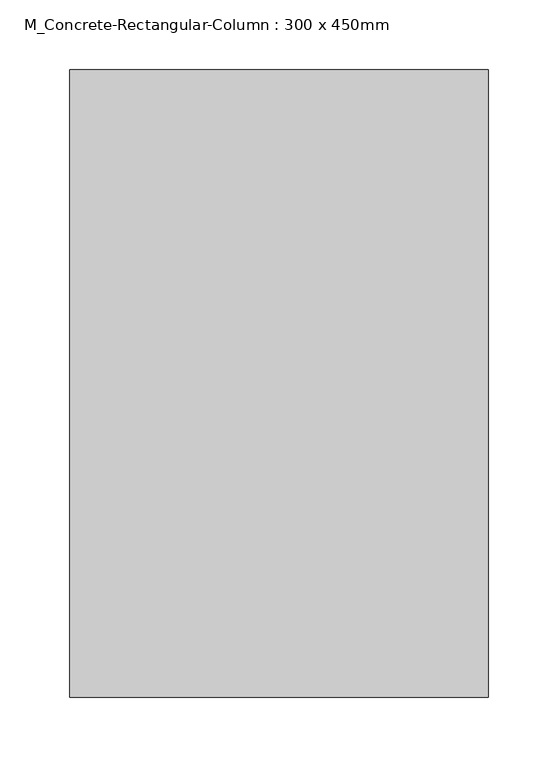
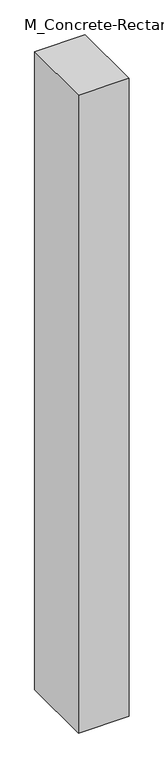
"""IFC4 building model written with IfcOpenShell, lengths in millimetres: column geometry, M_Concrete-Rectangular-Column : 300 x 450mm."""

from ifc_helpers import new_model, si_unit, origin, origin_with_axes, place, context, project, spatial, polyline, outline, extrude, source, transform, mapped, element, save


def m_concrete_rectangular_column_300_x_450mm_c5d8a032(model_context):
    return source(origin(), model_context, "Body", "SweptSolid", [
        extrude(outline(polyline([(150.0, 225.0), (150.0, -225.0), (-150.0, -225.0), (-150.0, 225.0), (150.0, 225.0)])), origin_with_axes(), (0.0, 0.0, 1.0), 4000.0),
    ])


if __name__ == "__main__":
    model = new_model("IFC4")
    model_context = context("Model", 3, world=origin())
    ifc_project = project(units=[si_unit("LENGTHUNIT", "METRE", prefix="MILLI")], contexts=[model_context])
    site = spatial("IfcSite", under=ifc_project)
    building = spatial("IfcBuilding", under=site)
    placement = place(None, origin())
    m_concrete_rectangular_column_300_x_450mm_shape = m_concrete_rectangular_column_300_x_450mm_c5d8a032(model_context)
    element("IfcColumn", 1, ObjectType="M_Concrete-Rectangular-Column : 300 x 450mm", at=placement, inside=building, context=model_context, shape_type="MappedRepresentation", body=[
        mapped(m_concrete_rectangular_column_300_x_450mm_shape, transform((0.0, 0.0, 0.0), x_axis=(1.0, 0.0, 0.0), y_axis=(0.0, 1.0, 0.0), z_axis=(0.0, 0.0, 1.0))),
    ])
    save(model, "model.ifc")
